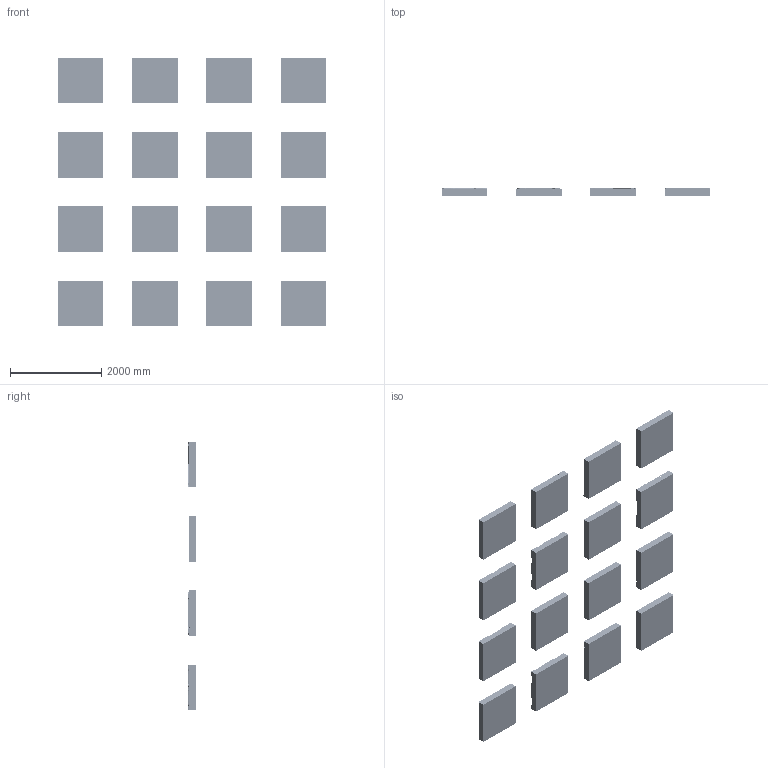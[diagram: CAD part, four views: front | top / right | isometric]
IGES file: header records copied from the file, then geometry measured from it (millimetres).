
Global section: file name: TileSet100x100; native system: unknown; preprocessor: unknown; author: unknown; organization: unknown; date: 20220607.153720; units: centimetre
Bounding box: 5900 x 170 x 5900 mm (x, y, z)
Volume: 2227940410.9 mm3; surface area: 57184302.1 mm2
Topology: 17 solids, 17 shells, 9650 faces, 23443 edges, 14647 vertices
Faces by surface type: bspline 9650
